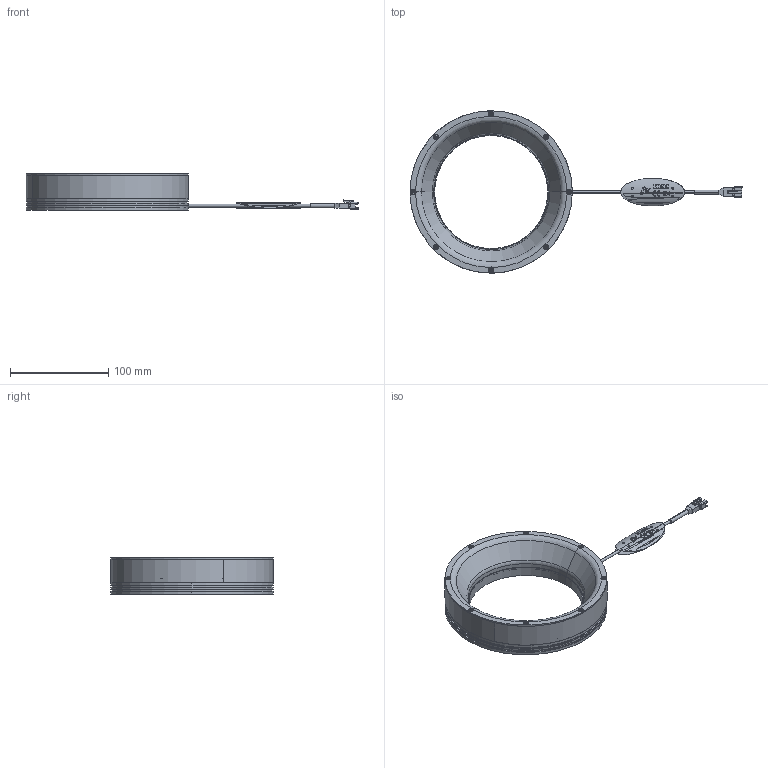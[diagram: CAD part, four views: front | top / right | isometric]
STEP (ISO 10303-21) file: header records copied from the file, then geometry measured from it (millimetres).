
FILE_DESCRIPTION(('STEP AP214'),'1');
FILE_NAME('VMR-165115_DRAWING_3D.step','2023-09-13T00:58:24',(' '),(' '),'Spatial InterOp 3D',' ',' ');
FILE_SCHEMA(('AUTOMOTIVE_DESIGN { 1 0 10303 214 1 1 1 1 }'));
Length unit declared in the file: millimetre
Products named in the file (12): 3P_1; CABEL TAG (VS); BASE_165; SIDE COVER; DIFFUSER_2; REFLECTOR; R7M-1; INSULOK_3; OFA249A; MXB5985_1; MXB4729
Assembly tree (32 placements, depth 2):
  (unnamed)
    3P_1
    CABEL TAG (VS)
    BASE_165
    SIDE COVER
    DIFFUSER_2
    REFLECTOR
    R7M-1
    INSULOK_3
    OFA249A  x8
    MXB5985_1  x8
    MXB4729  x8
Bounding box: 337.5 x 165 x 37.75 mm (x, y, z)
Volume: 218073.4 mm3; surface area: 152844 mm2
Topology: 57 solids, 58 shells, 1219 faces, 3209 edges, 2155 vertices
Faces by surface type: plane 572, cylinder 447, torus 76, cone 70, sphere 48, bspline 6
Entity records: 31340 total; most frequent: CARTESIAN_POINT 6462, ORIENTED_EDGE 3994, DIRECTION 3807, EDGE_CURVE 1997, AXIS2_PLACEMENT_3D 1406, VERTEX_POINT 1399, LINE 995, VECTOR 995
